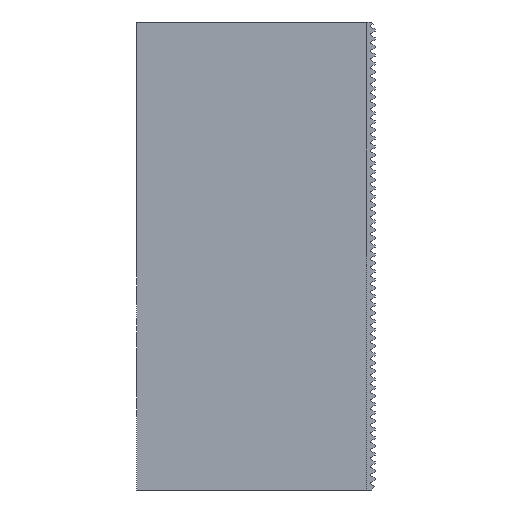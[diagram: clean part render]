
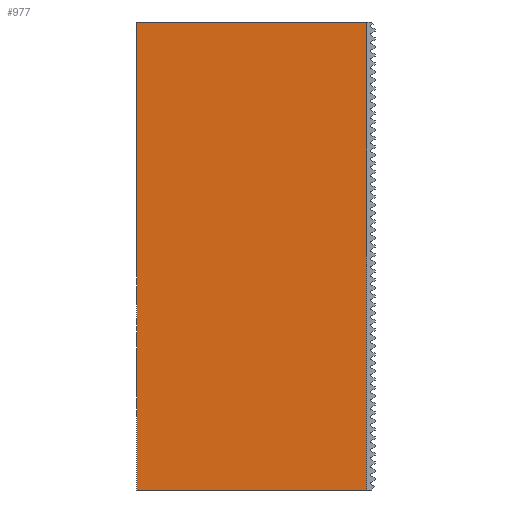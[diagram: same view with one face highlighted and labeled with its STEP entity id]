
A CAD part, left-side view. The second image highlights one B-rep face of the part: STEP entity #977.
In plain terms, the highlighted planar face has unit normal (-1, 0, 0).
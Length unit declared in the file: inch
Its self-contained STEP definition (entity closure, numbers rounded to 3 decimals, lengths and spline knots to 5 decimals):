
#340 = FACE_OUTER_BOUND ( 'NONE', #13380, .T. ) ;
#616 = LINE ( 'NONE', #15616, #6361 ) ;
#916 = CARTESIAN_POINT ( 'NONE',  ( -2., -0.13567, -5.3317 ) ) ;
#977 = ADVANCED_FACE ( 'NONE', ( #340 ), #1305, .T. ) ;
#1305 = PLANE ( 'NONE',  #8017 ) ;
#1760 = VERTEX_POINT ( 'NONE', #9904 ) ;
#1823 = ORIENTED_EDGE ( 'NONE', *, *, #5871, .T. ) ;
#2536 = EDGE_CURVE ( 'NONE', #2787, #4966, #14782, .T. ) ;
#2787 = VERTEX_POINT ( 'NONE', #3211 ) ;
#3076 = ORIENTED_EDGE ( 'NONE', *, *, #10755, .F. ) ;
#3092 = DIRECTION ( 'NONE',  ( 0., 0., 1. ) ) ;
#3170 = LINE ( 'NONE', #15521, #11842 ) ;
#3211 = CARTESIAN_POINT ( 'NONE',  ( -2., 1.5, -0.2126 ) ) ;
#3350 = DIRECTION ( 'NONE',  ( 0., 1., 0. ) ) ;
#3927 = VECTOR ( 'NONE', #10908, 39.37008 ) ;
#4869 = CARTESIAN_POINT ( 'NONE',  ( -2., -0.13567, -0.2126 ) ) ;
#4966 = VERTEX_POINT ( 'NONE', #4869 ) ;
#5359 = CARTESIAN_POINT ( 'NONE',  ( -2., -0.13567, -3.5374 ) ) ;
#5871 = EDGE_CURVE ( 'NONE', #12288, #4966, #13205, .T. ) ;
#6361 = VECTOR ( 'NONE', #3350, 39.37008 ) ;
#8017 = AXIS2_PLACEMENT_3D ( 'NONE', #15039, #14957, #8988 ) ;
#8544 = EDGE_CURVE ( 'NONE', #1760, #2787, #3170, .T. ) ;
#8988 = DIRECTION ( 'NONE',  ( 0., 0., 1. ) ) ;
#9904 = CARTESIAN_POINT ( 'NONE',  ( -2., 1.5, -3.5374 ) ) ;
#10755 = EDGE_CURVE ( 'NONE', #12288, #1760, #616, .T. ) ;
#10908 = DIRECTION ( 'NONE',  ( 0., -1., 0. ) ) ;
#11075 = CARTESIAN_POINT ( 'NONE',  ( -2., 0., -0.2126 ) ) ;
#11842 = VECTOR ( 'NONE', #3092, 39.37008 ) ;
#11969 = ORIENTED_EDGE ( 'NONE', *, *, #2536, .F. ) ;
#12288 = VERTEX_POINT ( 'NONE', #5359 ) ;
#13205 = LINE ( 'NONE', #916, #14086 ) ;
#13368 = DIRECTION ( 'NONE',  ( 0., 0., 1. ) ) ;
#13380 = EDGE_LOOP ( 'NONE', ( #3076, #1823, #11969, #15743 ) ) ;
#14086 = VECTOR ( 'NONE', #13368, 39.37008 ) ;
#14782 = LINE ( 'NONE', #11075, #3927 ) ;
#14957 = DIRECTION ( 'NONE',  ( -1., 0., 0. ) ) ;
#15039 = CARTESIAN_POINT ( 'NONE',  ( -2., 0., 0. ) ) ;
#15521 = CARTESIAN_POINT ( 'NONE',  ( -2., 1.5, -0.2126 ) ) ;
#15616 = CARTESIAN_POINT ( 'NONE',  ( -2., 1.5, -3.5374 ) ) ;
#15743 = ORIENTED_EDGE ( 'NONE', *, *, #8544, .F. ) ;
